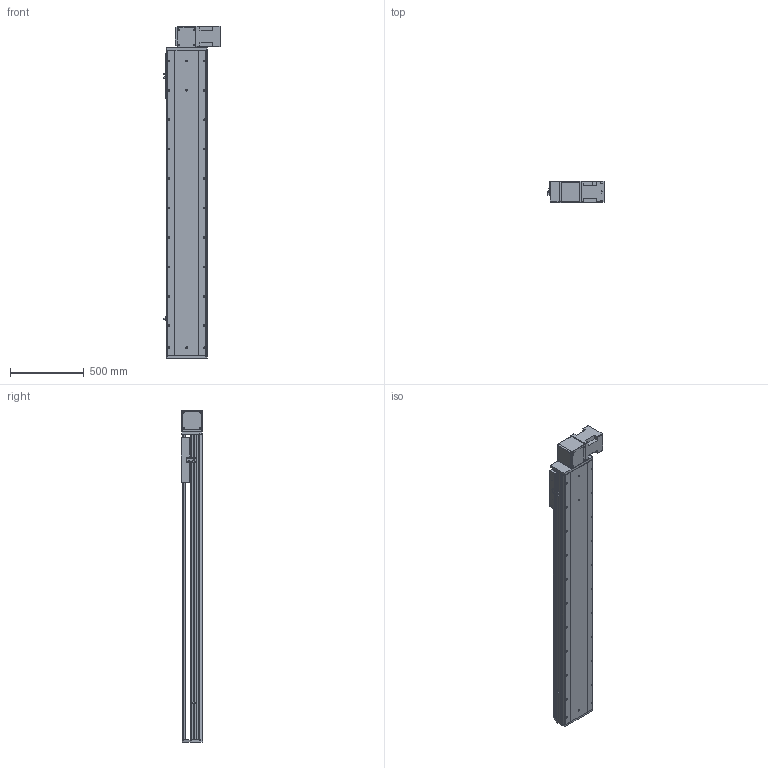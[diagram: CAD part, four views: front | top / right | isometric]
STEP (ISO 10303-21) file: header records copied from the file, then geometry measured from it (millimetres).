
FILE_DESCRIPTION (( 'STEP AP214' ), '1' );
FILE_NAME ('RTB28S-XX-1650-BL-M100-XX-C4.STEP', '2025-12-22T02:24:08', ( '' ), ( '' ), 'SwSTEP 2.0', 'SolidWorks 2018', '' );
FILE_SCHEMA (( 'AUTOMOTIVE_DESIGN' ));
Length unit declared in the file: millimetre
Products named in the file (4): RTB28S-XX-1650-BL-M100-XX-C4; RTB28S-GY-008^RTB28S-XX-XX-BL-M100-XX-C4; RTB28S-GY-004^RTB28S-XX-XX-BL-M100-XX-C4; RTB28S-GY-011^RTB28S-XX-XX-BL-M100-XX-C4
Assembly tree (3 placements, depth 2):
  RTB28S-XX-1650-BL-M100-XX-C4
    RTB28S-GY-011^RTB28S-XX-XX-BL-M100-XX-C4
    RTB28S-GY-004^RTB28S-XX-XX-BL-M100-XX-C4
    RTB28S-GY-008^RTB28S-XX-XX-BL-M100-XX-C4
Bounding box: 380.7 x 145 x 2257 mm (x, y, z)
Volume: 39852013.4 mm3; surface area: 3784754.5 mm2
Topology: 3 solids, 4 shells, 818 faces, 2178 edges, 1388 vertices
Faces by surface type: cylinder 383, plane 351, cone 80, torus 4
Entity records: 30971 total; most frequent: CARTESIAN_POINT 5452, DIRECTION 4620, ORIENTED_EDGE 4292, EDGE_CURVE 2146, AXIS2_PLACEMENT_3D 1680, VERTEX_POINT 1388, VECTOR 1260, LINE 1260
